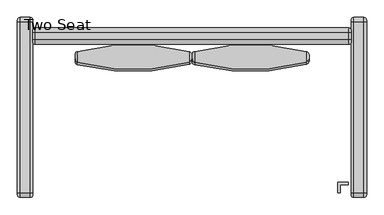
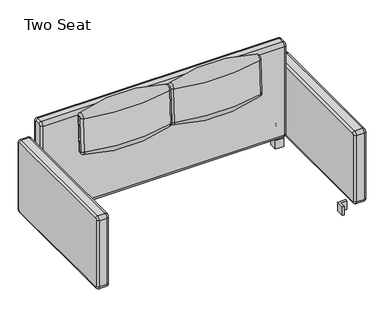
"""IFC4 building model written with IfcOpenShell, lengths in millimetres: furniture geometry, Steelcase Coalesse - Evaneau - Seating - Sofa : Two Seat."""

from ifc_helpers import new_model, si_unit, point, frame, origin, origin_with_axes, place, context, project, spatial, polyline, circle_curve, ellipse_curve, trimmed, outline, extrude, source, transform, mapped, element, save
from ifc_brep_helpers import plane_surface, cylinder_surface, revolved_surface, advanced_brep


def two_seat_02a8d479(model_context):
    return source(origin(), model_context, "Body", "SolidModel", [
        advanced_brep(
        [(-678.1280289, 903.8964377, 479.2310241), (-678.1280289, 914.9972741, 691.047601), (-663.917922, 896.5975978, 692.0118871), (-663.917922, 885.4967614, 480.1953103), (-663.917922, 882.8995406, 692.7297719), (-663.917922, 871.7987042, 480.913195), (-678.1280289, 864.4998643, 693.6940581), (-678.1280289, 853.3990279, 481.8774812), (-1213.8326529, 864.1774825, 693.7109534), (-1213.8326529, 853.0766461, 481.8943765), (-1225.73815, 879.5738856, 692.9040621), (-1225.73815, 868.4730492, 481.0874852), (-1225.73815, 899.9232528, 691.8375969), (-1225.73815, 888.8224164, 480.0210201), (-1213.8326529, 915.3196559, 691.0307057), (-1213.8326529, 904.2188195, 479.2141288)],
        [
            (0, 1),
            (1, 2, circle_curve(frame((-682.967922, 896.5975978, 692.0118871), z_axis=(0.0, -0.05233595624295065, -0.9986295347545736), x_axis=(1.0, 0.0, 0.0)), 19.05)),
            (2, 3),
            (3, 0, circle_curve(frame((-682.967922, 885.4967614, 480.1953103), z_axis=(0.0, 0.05233595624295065, 0.9986295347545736), x_axis=(1.0, 0.0, 0.0)), 19.05)),
            (2, 4, circle_curve(frame((-663.917922, 889.7485692, 692.3708295), z_axis=(1.0, 0.0, 0.0), x_axis=(0.0, 0.9986295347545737, -0.052335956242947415)), 6.8584279)),
            (4, 5),
            (5, 3, circle_curve(frame((-663.917922, 878.6477328, 480.5542526), z_axis=(1.0, 0.0, 0.0), x_axis=(0.0, 0.9986295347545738, -0.05233595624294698)), 6.8584279)),
            (4, 6, circle_curve(frame((-682.967922, 882.8995406, 692.7297719), z_axis=(0.0, -0.05233595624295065, -0.9986295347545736), x_axis=(1.0, 0.0, 0.0)), 19.05)),
            (6, 7),
            (7, 5, circle_curve(frame((-682.967922, 871.7987042, 480.913195), z_axis=(0.0, 0.05233595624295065, 0.9986295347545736), x_axis=(1.0, 0.0, 0.0)), 19.05)),
            (6, 8, circle_curve(frame((-946.5963289, 1885.1277547, 640.2052169), z_axis=(0.0, -0.05233595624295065, -0.9986295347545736), x_axis=(1.0, 0.0, 0.0)), 1056.7012705)),
            (8, 9),
            (9, 7, circle_curve(frame((-946.5963289, 1874.0269183, 428.38864), z_axis=(0.0, 0.05233595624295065, 0.9986295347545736), x_axis=(1.0, 0.0, 0.0)), 1056.7012705)),
            (8, 10, circle_curve(frame((-1209.8026053, 879.5738856, 692.9040621), z_axis=(0.0, -0.05233595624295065, -0.9986295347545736), x_axis=(1.0, 0.0, 0.0)), 15.9355447)),
            (10, 11),
            (11, 9, circle_curve(frame((-1209.8026053, 868.4730492, 481.0874852), z_axis=(0.0, 0.05233595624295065, 0.9986295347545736), x_axis=(1.0, 0.0, 0.0)), 15.9355447)),
            (10, 12, circle_curve(frame((-1225.73815, 889.7485692, 692.3708295), z_axis=(-1.0, 0.0, 0.0), x_axis=(0.0, 0.9986295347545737, -0.052335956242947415)), 10.1886468)),
            (12, 13),
            (13, 11, circle_curve(frame((-1225.73815, 878.6477328, 480.5542526), z_axis=(-1.0, 0.0, 0.0), x_axis=(0.0, 0.9986295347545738, -0.05233595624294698)), 10.1886468)),
            (12, 14, circle_curve(frame((-1209.8026053, 899.9232528, 691.8375969), z_axis=(0.0, -0.05233595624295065, -0.9986295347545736), x_axis=(1.0, 0.0, 0.0)), 15.9355447)),
            (14, 15),
            (15, 13, circle_curve(frame((-1209.8026053, 888.8224164, 480.0210201), z_axis=(0.0, 0.05233595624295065, 0.9986295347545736), x_axis=(1.0, 0.0, 0.0)), 15.9355447)),
            (0, 15, circle_curve(frame((-946.5963289, -116.7314527, 532.7198653), z_axis=(0.0, 0.05233595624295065, 0.9986295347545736), x_axis=(1.0, 0.0, 0.0)), 1056.7012705)),
            (14, 1, circle_curve(frame((-946.5963289, -105.6306163, 744.5364422), z_axis=(0.0, -0.05233595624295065, -0.9986295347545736), x_axis=(1.0, 0.0, 0.0)), 1056.7012705)),
            (8, 14, circle_curve(frame((-1213.8326529, 889.7485692, 692.3708295), z_axis=(-1.0, 0.0, 0.0), x_axis=(0.0, 0.9986295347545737, -0.052335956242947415)), 25.606179)),
            (6, 1, circle_curve(frame((-678.1280289, 889.7485692, 692.3708295), z_axis=(-1.0, 0.0, 0.0), x_axis=(0.0, 0.9986295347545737, -0.052335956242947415)), 25.2833549)),
            (15, 9, circle_curve(frame((-1213.8326529, 878.6477328, 480.5542526), z_axis=(-1.0, 0.0, 0.0), x_axis=(0.0, 0.9986295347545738, -0.05233595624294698)), 25.606179)),
            (7, 0, circle_curve(frame((-678.1280289, 878.6477328, 480.5542526), z_axis=(1.0, 0.0, 0.0), x_axis=(0.0, 0.9986295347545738, -0.05233595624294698)), 25.2833549)),
        ],
        [
            cylinder_surface(frame((-682.967922, 896.5975978, 692.0118871), z_axis=(0.0, -0.05233595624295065, -0.9986295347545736), x_axis=(1.0, 0.0, 0.0)), 19.05),
            plane_surface(frame((-663.917922, 885.4967614, 480.1953103), z_axis=(1.0000000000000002, 0.0, 0.0), x_axis=(0.0, 0.052335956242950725, 0.9986295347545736))),
            cylinder_surface(frame((-682.967922, 882.8995406, 692.7297719), z_axis=(0.0, -0.05233595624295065, -0.9986295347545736), x_axis=(1.0, 0.0, 0.0)), 19.05),
            cylinder_surface(frame((-946.5963289, 1885.1277547, 640.2052169), z_axis=(0.0, -0.05233595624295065, -0.9986295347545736), x_axis=(1.0, 0.0, 0.0)), 1056.7012705),
            cylinder_surface(frame((-1209.8026053, 879.5738856, 692.9040621), z_axis=(0.0, -0.05233595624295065, -0.9986295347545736), x_axis=(1.0, 0.0, 0.0)), 15.9355447),
            plane_surface(frame((-1225.73815, 868.4730492, 481.0874852), z_axis=(-1.0000000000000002, 0.0, 0.0), x_axis=(0.0, 0.052335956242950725, 0.9986295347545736))),
            cylinder_surface(frame((-1209.8026053, 899.9232528, 691.8375969), z_axis=(0.0, -0.05233595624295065, -0.9986295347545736), x_axis=(1.0, 0.0, 0.0)), 15.9355447),
            cylinder_surface(frame((-946.5963289, -105.6306163, 744.5364422), z_axis=(0.0, -0.05233595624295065, -0.9986295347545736), x_axis=(1.0, 0.0, 0.0)), 1056.7012705),
            revolved_surface(trimmed(ellipse_curve(frame((-1209.8026053, 899.9232528, 691.8375969), z_axis=(0.0, -0.05233595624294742, -0.9986295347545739), x_axis=(0.280242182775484, -0.958613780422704, 0.050238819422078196)), 15.9355447, 15.9355447), [point((-1225.73815, 899.9232528, 691.8375969))], [point((-1213.8326529, 915.3196559, 691.0307057))], True, "CARTESIAN"), (-1225.73815, 889.7485692, 692.3708295), (1.0, 0.0, 0.0)),
            revolved_surface(trimmed(ellipse_curve(frame((-946.5963289, -105.6306163, 744.5364422), z_axis=(0.0, -0.05233595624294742, -0.9986295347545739), x_axis=(0.280242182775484, -0.958613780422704, 0.050238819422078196)), 1056.7012705, 1056.7012705), [point((-1213.8326529, 915.3196559, 691.0307057))], [point((-678.1280289, 914.9972741, 691.047601))], True, "CARTESIAN"), (-1225.73815, 889.7485692, 692.3708295), (1.0, 0.0, 0.0)),
            revolved_surface(trimmed(ellipse_curve(frame((-682.967922, 896.5975978, 692.0118871), z_axis=(0.0, -0.05233595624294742, -0.9986295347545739), x_axis=(0.280242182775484, -0.958613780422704, 0.050238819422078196)), 19.05, 19.05), [point((-678.1280289, 914.9972741, 691.047601))], [point((-663.917922, 896.5975978, 692.0118871))], True, "CARTESIAN"), (-1225.73815, 889.7485692, 692.3708295), (1.0, 0.0, 0.0)),
            revolved_surface(trimmed(ellipse_curve(frame((-1209.8026053, 888.8224164, 480.0210201), z_axis=(0.0, 0.05233595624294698, 0.9986295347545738), x_axis=(1.0, 0.0, 0.0)), 15.9355447, 15.9355447), [point((-1213.8326529, 904.2188195, 479.2141288))], [point((-1225.73815, 888.8224164, 480.0210201))], True, "CARTESIAN"), (-663.917922, 878.6477328, 480.5542526), (-1.0, 0.0, 0.0)),
            revolved_surface(trimmed(ellipse_curve(frame((-682.967922, 885.4967614, 480.1953103), z_axis=(0.0, 0.05233595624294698, 0.9986295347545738), x_axis=(1.0, 0.0, 0.0)), 19.05, 19.05), [point((-663.917922, 885.4967614, 480.1953103))], [point((-678.1280289, 903.8964377, 479.2310241))], True, "CARTESIAN"), (-663.917922, 878.6477328, 480.5542526), (-1.0, 0.0, 0.0)),
            revolved_surface(trimmed(ellipse_curve(frame((-946.5963289, -116.7314527, 532.7198653), z_axis=(0.0, 0.05233595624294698, 0.9986295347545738), x_axis=(1.0, 0.0, 0.0)), 1056.7012705, 1056.7012705), [point((-678.1280289, 903.8964377, 479.2310241))], [point((-1213.8326529, 904.2188195, 479.2141288))], True, "CARTESIAN"), (-663.917922, 878.6477328, 480.5542526), (-1.0, 0.0, 0.0)),
        ],
        [
            (0, [[1, 2, 3, 4]]),
            (1, [[-3, 5, 6, 7]]),
            (2, [[-6, 8, 9, 10]]),
            (3, [[-9, 11, 12, 13]]),
            (4, [[-12, 14, 15, 16]]),
            (5, [[-15, 17, 18, 19]]),
            (6, [[-18, 20, 21, 22]]),
            (7, [[-1, 23, -21, 24]]),
            (8, [[-17, -14, 25, -20]]),
            (9, [[-25, -11, 26, -24]]),
            (10, [[-26, -8, -5, -2]]),
            (11, [[-19, -22, 27, -16]]),
            (12, [[-7, -10, 28, -4]]),
            (13, [[-27, -23, -28, -13]]),
        ],
    ),
        advanced_brep(
        [(-115.8305616, 903.8964377, 479.2310241), (-115.8305616, 914.9972741, 691.047601), (-101.6204546, 896.5975978, 692.0118871), (-101.6204546, 885.4967614, 480.1953103), (-101.6204546, 882.8995406, 692.7297719), (-101.6204546, 871.7987042, 480.913195), (-115.8305616, 864.4998643, 693.6940581), (-115.8305616, 853.3990279, 481.8774812), (-651.5351855, 864.1774825, 693.7109534), (-651.5351855, 853.0766461, 481.8943765), (-663.4406826, 879.5738856, 692.9040621), (-663.4406826, 868.4730492, 481.0874852), (-663.4406826, 899.9232528, 691.8375969), (-663.4406826, 888.8224164, 480.0210201), (-651.5351855, 915.3196559, 691.0307057), (-651.5351855, 904.2188195, 479.2141288)],
        [
            (0, 1),
            (1, 2, circle_curve(frame((-120.6704546, 896.5975978, 692.0118871), z_axis=(0.0, -0.05233595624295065, -0.9986295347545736), x_axis=(1.0, 0.0, 0.0)), 19.05)),
            (2, 3),
            (3, 0, circle_curve(frame((-120.6704546, 885.4967614, 480.1953103), z_axis=(0.0, 0.05233595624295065, 0.9986295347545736), x_axis=(1.0, 0.0, 0.0)), 19.05)),
            (2, 4, circle_curve(frame((-101.6204546, 889.7485692, 692.3708295), z_axis=(1.0, 0.0, 0.0), x_axis=(0.0, 0.9986295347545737, -0.052335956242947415)), 6.8584279)),
            (4, 5),
            (5, 3, circle_curve(frame((-101.6204546, 878.6477328, 480.5542526), z_axis=(1.0, 0.0, 0.0), x_axis=(0.0, 0.9986295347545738, -0.05233595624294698)), 6.8584279)),
            (4, 6, circle_curve(frame((-120.6704546, 882.8995406, 692.7297719), z_axis=(0.0, -0.05233595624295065, -0.9986295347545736), x_axis=(1.0, 0.0, 0.0)), 19.05)),
            (6, 7),
            (7, 5, circle_curve(frame((-120.6704546, 871.7987042, 480.913195), z_axis=(0.0, 0.05233595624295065, 0.9986295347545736), x_axis=(1.0, 0.0, 0.0)), 19.05)),
            (6, 8, circle_curve(frame((-384.2988615, 1885.1277547, 640.2052169), z_axis=(0.0, -0.05233595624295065, -0.9986295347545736), x_axis=(1.0, 0.0, 0.0)), 1056.7012705)),
            (8, 9),
            (9, 7, circle_curve(frame((-384.2988615, 1874.0269183, 428.38864), z_axis=(0.0, 0.05233595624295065, 0.9986295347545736), x_axis=(1.0, 0.0, 0.0)), 1056.7012705)),
            (8, 10, circle_curve(frame((-647.505138, 879.5738856, 692.9040621), z_axis=(0.0, -0.05233595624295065, -0.9986295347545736), x_axis=(1.0, 0.0, 0.0)), 15.9355447)),
            (10, 11),
            (11, 9, circle_curve(frame((-647.505138, 868.4730492, 481.0874852), z_axis=(0.0, 0.05233595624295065, 0.9986295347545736), x_axis=(1.0, 0.0, 0.0)), 15.9355447)),
            (10, 12, circle_curve(frame((-663.4406826, 889.7485692, 692.3708295), z_axis=(-1.0, 0.0, 0.0), x_axis=(0.0, 0.9986295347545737, -0.052335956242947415)), 10.1886468)),
            (12, 13),
            (13, 11, circle_curve(frame((-663.4406826, 878.6477328, 480.5542526), z_axis=(-1.0, 0.0, 0.0), x_axis=(0.0, 0.9986295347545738, -0.05233595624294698)), 10.1886468)),
            (12, 14, circle_curve(frame((-647.505138, 899.9232528, 691.8375969), z_axis=(0.0, -0.05233595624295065, -0.9986295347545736), x_axis=(1.0, 0.0, 0.0)), 15.9355447)),
            (14, 15),
            (15, 13, circle_curve(frame((-647.505138, 888.8224164, 480.0210201), z_axis=(0.0, 0.05233595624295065, 0.9986295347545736), x_axis=(1.0, 0.0, 0.0)), 15.9355447)),
            (0, 15, circle_curve(frame((-384.2988615, -116.7314527, 532.7198653), z_axis=(0.0, 0.05233595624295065, 0.9986295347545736), x_axis=(1.0, 0.0, 0.0)), 1056.7012705)),
            (14, 1, circle_curve(frame((-384.2988615, -105.6306163, 744.5364422), z_axis=(0.0, -0.05233595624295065, -0.9986295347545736), x_axis=(1.0, 0.0, 0.0)), 1056.7012705)),
            (8, 14, circle_curve(frame((-651.5351855, 889.7485692, 692.3708295), z_axis=(-1.0, 0.0, 0.0), x_axis=(0.0, 0.9986295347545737, -0.052335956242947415)), 25.606179)),
            (6, 1, circle_curve(frame((-115.8305616, 889.7485692, 692.3708295), z_axis=(-1.0, 0.0, 0.0), x_axis=(0.0, 0.9986295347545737, -0.052335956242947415)), 25.2833549)),
            (15, 9, circle_curve(frame((-651.5351855, 878.6477328, 480.5542526), z_axis=(-1.0, 0.0, 0.0), x_axis=(0.0, 0.9986295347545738, -0.05233595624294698)), 25.606179)),
            (7, 0, circle_curve(frame((-115.8305616, 878.6477328, 480.5542526), z_axis=(1.0, 0.0, 0.0), x_axis=(0.0, 0.9986295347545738, -0.05233595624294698)), 25.2833549)),
        ],
        [
            cylinder_surface(frame((-120.6704546, 896.5975978, 692.0118871), z_axis=(0.0, -0.05233595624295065, -0.9986295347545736), x_axis=(1.0, 0.0, 0.0)), 19.05),
            plane_surface(frame((-101.6204546, 885.4967614, 480.1953103), z_axis=(1.0000000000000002, 0.0, 0.0), x_axis=(0.0, 0.052335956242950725, 0.9986295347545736))),
            cylinder_surface(frame((-120.6704546, 882.8995406, 692.7297719), z_axis=(0.0, -0.05233595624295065, -0.9986295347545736), x_axis=(1.0, 0.0, 0.0)), 19.05),
            cylinder_surface(frame((-384.2988615, 1885.1277547, 640.2052169), z_axis=(0.0, -0.05233595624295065, -0.9986295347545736), x_axis=(1.0, 0.0, 0.0)), 1056.7012705),
            cylinder_surface(frame((-647.505138, 879.5738856, 692.9040621), z_axis=(0.0, -0.05233595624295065, -0.9986295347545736), x_axis=(1.0, 0.0, 0.0)), 15.9355447),
            plane_surface(frame((-663.4406826, 868.4730492, 481.0874852), z_axis=(-1.0000000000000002, 0.0, 0.0), x_axis=(0.0, 0.052335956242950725, 0.9986295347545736))),
            cylinder_surface(frame((-647.505138, 899.9232528, 691.8375969), z_axis=(0.0, -0.05233595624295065, -0.9986295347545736), x_axis=(1.0, 0.0, 0.0)), 15.9355447),
            cylinder_surface(frame((-384.2988615, -105.6306163, 744.5364422), z_axis=(0.0, -0.05233595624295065, -0.9986295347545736), x_axis=(1.0, 0.0, 0.0)), 1056.7012705),
            revolved_surface(trimmed(ellipse_curve(frame((-647.505138, 899.9232528, 691.8375969), z_axis=(0.0, -0.05233595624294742, -0.9986295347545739), x_axis=(0.280242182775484, -0.958613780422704, 0.050238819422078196)), 15.9355447, 15.9355447), [point((-663.4406826, 899.9232528, 691.8375969))], [point((-651.5351855, 915.3196559, 691.0307057))], True, "CARTESIAN"), (-663.4406826, 889.7485692, 692.3708295), (1.0, 0.0, 0.0)),
            revolved_surface(trimmed(ellipse_curve(frame((-384.2988615, -105.6306163, 744.5364422), z_axis=(0.0, -0.05233595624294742, -0.9986295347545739), x_axis=(0.280242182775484, -0.958613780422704, 0.050238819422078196)), 1056.7012705, 1056.7012705), [point((-651.5351855, 915.3196559, 691.0307057))], [point((-115.8305616, 914.9972741, 691.047601))], True, "CARTESIAN"), (-663.4406826, 889.7485692, 692.3708295), (1.0, 0.0, 0.0)),
            revolved_surface(trimmed(ellipse_curve(frame((-120.6704546, 896.5975978, 692.0118871), z_axis=(0.0, -0.05233595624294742, -0.9986295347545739), x_axis=(0.280242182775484, -0.958613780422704, 0.050238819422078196)), 19.05, 19.05), [point((-115.8305616, 914.9972741, 691.047601))], [point((-101.6204546, 896.5975978, 692.0118871))], True, "CARTESIAN"), (-663.4406826, 889.7485692, 692.3708295), (1.0, 0.0, 0.0)),
            revolved_surface(trimmed(ellipse_curve(frame((-647.505138, 888.8224164, 480.0210201), z_axis=(0.0, 0.05233595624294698, 0.9986295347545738), x_axis=(1.0, 0.0, 0.0)), 15.9355447, 15.9355447), [point((-651.5351855, 904.2188195, 479.2141288))], [point((-663.4406826, 888.8224164, 480.0210201))], True, "CARTESIAN"), (-101.6204546, 878.6477328, 480.5542526), (-1.0, 0.0, 0.0)),
            revolved_surface(trimmed(ellipse_curve(frame((-120.6704546, 885.4967614, 480.1953103), z_axis=(0.0, 0.05233595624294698, 0.9986295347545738), x_axis=(1.0, 0.0, 0.0)), 19.05, 19.05), [point((-101.6204546, 885.4967614, 480.1953103))], [point((-115.8305616, 903.8964377, 479.2310241))], True, "CARTESIAN"), (-101.6204546, 878.6477328, 480.5542526), (-1.0, 0.0, 0.0)),
            revolved_surface(trimmed(ellipse_curve(frame((-384.2988615, -116.7314527, 532.7198653), z_axis=(0.0, 0.05233595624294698, 0.9986295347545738), x_axis=(1.0, 0.0, 0.0)), 1056.7012705, 1056.7012705), [point((-115.8305616, 903.8964377, 479.2310241))], [point((-651.5351855, 904.2188195, 479.2141288))], True, "CARTESIAN"), (-101.6204546, 878.6477328, 480.5542526), (-1.0, 0.0, 0.0)),
        ],
        [
            (0, [[1, 2, 3, 4]]),
            (1, [[-3, 5, 6, 7]]),
            (2, [[-6, 8, 9, 10]]),
            (3, [[-9, 11, 12, 13]]),
            (4, [[-12, 14, 15, 16]]),
            (5, [[-15, 17, 18, 19]]),
            (6, [[-18, 20, 21, 22]]),
            (7, [[-1, 23, -21, 24]]),
            (8, [[-17, -14, 25, -20]]),
            (9, [[-25, -11, 26, -24]]),
            (10, [[-26, -8, -5, -2]]),
            (11, [[-19, -22, 27, -16]]),
            (12, [[-7, -10, 28, -4]]),
            (13, [[-27, -23, -28, -13]]),
        ],
    ),
        advanced_brep(
        [(161.582078, 1079.0418203, 513.0799782), (161.582078, 1058.7217985, 533.4), (174.282078, 1058.7217985, 520.7), (174.282078, 1066.3418203, 513.0799782), (113.322078, 1079.0418203, 513.0799782), (113.322078, 1058.7217985, 533.4), (100.622078, 1066.3418203, 513.0799782), (100.622078, 1058.7217985, 520.7), (174.282078, 1066.3418203, 76.6537426), (161.582078, 1079.0418203, 76.6537426), (113.322078, 1079.0418203, 76.6537426), (100.622078, 1066.3418203, 76.6537426), (174.282078, 1058.7217985, 69.0337208), (161.582078, 1058.7217985, 56.3337208), (113.322078, 1058.7217985, 56.3337208), (100.622078, 1058.7217985, 69.0337208), (174.282078, 235.3471838, 69.0337208), (161.582078, 235.3471838, 56.3337208), (113.322078, 235.3471838, 56.3337208), (100.622078, 235.3471838, 69.0337208), (174.282078, 227.727162, 76.6537426), (161.582078, 215.027162, 76.6537426), (113.322078, 215.027162, 76.6537426), (100.622078, 227.727162, 76.6537426), (174.282078, 227.727162, 513.0799782), (161.582078, 215.027162, 513.0799782), (113.322078, 215.027162, 513.0799782), (100.622078, 227.727162, 513.0799782), (174.282078, 235.3471838, 520.7), (161.582078, 235.3471838, 533.4), (113.322078, 235.3471838, 533.4), (100.622078, 235.3471838, 520.7)],
        [
            (0, 1, circle_curve(frame((161.582078, 1058.7217985, 513.0799782), z_axis=(1.0, 0.0, 0.0), x_axis=(0.0, 0.0, 1.0)), 20.3200218)),
            (1, 2, circle_curve(frame((161.582078, 1058.7217985, 520.7), z_axis=(0.0, 1.0, 0.0), x_axis=(0.0, 0.0, -1.0)), 12.7)),
            (2, 3, circle_curve(frame((174.282078, 1058.7217985, 513.0799782), z_axis=(-1.0, 0.0, 0.0), x_axis=(0.0, 0.0, 1.0)), 7.6200218)),
            (3, 0, circle_curve(frame((161.582078, 1066.3418203, 513.0799782), z_axis=(0.0, 0.0, 1.0), x_axis=(0.0, -1.0, 0.0)), 12.7)),
            (0, 4),
            (4, 5, circle_curve(frame((113.322078, 1058.7217985, 513.0799782), z_axis=(1.0, 0.0, 0.0), x_axis=(0.0, 0.0, 1.0)), 20.3200218)),
            (5, 1),
            (4, 6, circle_curve(frame((113.322078, 1066.3418203, 513.0799782), z_axis=(0.0, 0.0, 1.0), x_axis=(0.0, -1.0, 0.0)), 12.7)),
            (6, 7, circle_curve(frame((100.622078, 1058.7217985, 513.0799782), z_axis=(1.0, 0.0, 0.0), x_axis=(0.0, 0.0, 1.0)), 7.6200218)),
            (7, 5, circle_curve(frame((113.322078, 1058.7217985, 520.7), z_axis=(0.0, 1.0, 0.0), x_axis=(0.0, 0.0, -1.0)), 12.7)),
            (3, 8),
            (8, 9, circle_curve(frame((161.582078, 1066.3418203, 76.6537426), z_axis=(0.0, 0.0, 1.0), x_axis=(0.0, -1.0, 0.0)), 12.7)),
            (9, 0),
            (9, 10),
            (10, 4),
            (10, 11, circle_curve(frame((113.322078, 1066.3418203, 76.6537426), z_axis=(0.0, 0.0, 1.0), x_axis=(0.0, -1.0, 0.0)), 12.7)),
            (11, 6),
            (8, 12, circle_curve(frame((174.282078, 1058.7217985, 76.6537426), z_axis=(-1.0, 0.0, 0.0), x_axis=(0.0, 1.0, 0.0)), 7.6200218)),
            (12, 13, circle_curve(frame((161.582078, 1058.7217985, 69.0337208), z_axis=(0.0, 1.0, 0.0), x_axis=(0.0, 0.0, 1.0)), 12.7)),
            (13, 9, circle_curve(frame((161.582078, 1058.7217985, 76.6537426), z_axis=(1.0, 0.0, 0.0), x_axis=(0.0, 1.0, 0.0)), 20.3200218)),
            (13, 14),
            (14, 10, circle_curve(frame((113.322078, 1058.7217985, 76.6537426), z_axis=(1.0, 0.0, 0.0), x_axis=(0.0, 1.0, 0.0)), 20.3200218)),
            (14, 15, circle_curve(frame((113.322078, 1058.7217985, 69.0337208), z_axis=(0.0, 1.0, 0.0), x_axis=(0.0, 0.0, 1.0)), 12.7)),
            (15, 11, circle_curve(frame((100.622078, 1058.7217985, 76.6537426), z_axis=(1.0, 0.0, 0.0), x_axis=(0.0, 1.0, 0.0)), 7.6200218)),
            (12, 16),
            (16, 17, circle_curve(frame((161.582078, 235.3471838, 69.0337208), z_axis=(0.0, 1.0, 0.0), x_axis=(0.0, 0.0, 1.0)), 12.7)),
            (17, 13),
            (17, 18),
            (18, 14),
            (18, 19, circle_curve(frame((113.322078, 235.3471838, 69.0337208), z_axis=(0.0, 1.0, 0.0), x_axis=(0.0, 0.0, 1.0)), 12.7)),
            (19, 15),
            (16, 20, circle_curve(frame((174.282078, 235.3471838, 76.6537426), z_axis=(-1.0, 0.0, 0.0), x_axis=(0.0, 0.0, -1.0)), 7.6200218)),
            (20, 21, circle_curve(frame((161.582078, 227.727162, 76.6537426), z_axis=(0.0, 0.0, -1.0), x_axis=(0.0, 1.0, 0.0)), 12.7)),
            (21, 17, circle_curve(frame((161.582078, 235.3471838, 76.6537426), z_axis=(1.0, 0.0, 0.0), x_axis=(0.0, 0.0, -1.0)), 20.3200218)),
            (21, 22),
            (22, 18, circle_curve(frame((113.322078, 235.3471838, 76.6537426), z_axis=(1.0, 0.0, 0.0), x_axis=(0.0, 0.0, -1.0)), 20.3200218)),
            (22, 23, circle_curve(frame((113.322078, 227.727162, 76.6537426), z_axis=(0.0, 0.0, -1.0), x_axis=(0.0, 1.0, 0.0)), 12.7)),
            (23, 19, circle_curve(frame((100.622078, 235.3471838, 76.6537426), z_axis=(1.0, 0.0, 0.0), x_axis=(0.0, 0.0, -1.0)), 7.6200218)),
            (20, 24),
            (24, 25, circle_curve(frame((161.582078, 227.727162, 513.0799782), z_axis=(0.0, 0.0, -1.0), x_axis=(0.0, 1.0, 0.0)), 12.7)),
            (25, 21),
            (25, 26),
            (26, 22),
            (26, 27, circle_curve(frame((113.322078, 227.727162, 513.0799782), z_axis=(0.0, 0.0, -1.0), x_axis=(0.0, 1.0, 0.0)), 12.7)),
            (27, 23),
            (24, 28, circle_curve(frame((174.282078, 235.3471838, 513.0799782), z_axis=(-1.0, 0.0, 0.0), x_axis=(0.0, -1.0, 0.0)), 7.6200218)),
            (28, 29, circle_curve(frame((161.582078, 235.3471838, 520.7), z_axis=(0.0, -1.0, 0.0), x_axis=(0.0, 0.0, -1.0)), 12.7)),
            (29, 25, circle_curve(frame((161.582078, 235.3471838, 513.0799782), z_axis=(1.0, 0.0, 0.0), x_axis=(0.0, -1.0, 0.0)), 20.3200218)),
            (29, 30),
            (30, 26, circle_curve(frame((113.322078, 235.3471838, 513.0799782), z_axis=(1.0, 0.0, 0.0), x_axis=(0.0, -1.0, 0.0)), 20.3200218)),
            (30, 31, circle_curve(frame((113.322078, 235.3471838, 520.7), z_axis=(0.0, -1.0, 0.0), x_axis=(0.0, 0.0, -1.0)), 12.7)),
            (31, 27, circle_curve(frame((100.622078, 235.3471838, 513.0799782), z_axis=(1.0, 0.0, 0.0), x_axis=(0.0, -1.0, 0.0)), 7.6200218)),
            (2, 28),
            (1, 29),
            (5, 30),
            (7, 31),
        ],
        [
            revolved_surface(trimmed(ellipse_curve(frame((161.582078, 1058.7217985, 520.7), z_axis=(0.0, -1.0, 0.0), x_axis=(0.0, 0.0, -1.0)), 12.7, 12.7), [point((174.282078, 1058.7217985, 520.7))], [point((161.582078, 1058.7217985, 533.4))], True, "CARTESIAN"), (405.422078, 1058.7217985, 513.0799782), (-1.0, 0.0, 0.0)),
            cylinder_surface(frame((405.422078, 1058.7217985, 513.0799782), z_axis=(-1.0, 0.0, 0.0), x_axis=(0.0, 0.0, 1.0)), 20.3200218),
            revolved_surface(trimmed(ellipse_curve(frame((113.322078, 1058.7217985, 520.7), z_axis=(0.0, -1.0, 0.0), x_axis=(0.0, 0.0, -1.0)), 12.7, 12.7), [point((113.322078, 1058.7217985, 533.4))], [point((100.622078, 1058.7217985, 520.7))], True, "CARTESIAN"), (405.422078, 1058.7217985, 513.0799782), (-1.0, 0.0, 0.0)),
            cylinder_surface(frame((161.582078, 1066.3418203, 513.0799782), z_axis=(0.0, 0.0, 1.0), x_axis=(0.0, -1.0, 0.0)), 12.7),
            plane_surface(frame((161.582078, 1079.0418203, 513.0799782), z_axis=(0.0, 1.0, 0.0), x_axis=(0.0, 0.0, -1.0))),
            cylinder_surface(frame((113.322078, 1066.3418203, 513.0799782), z_axis=(0.0, 0.0, 1.0), x_axis=(0.0, -1.0, 0.0)), 12.7),
            revolved_surface(trimmed(ellipse_curve(frame((161.582078, 1066.3418203, 76.6537426), z_axis=(0.0, 0.0, 1.0), x_axis=(0.0, -1.0, 0.0)), 12.7, 12.7), [point((174.282078, 1066.3418203, 76.6537426))], [point((161.582078, 1079.0418203, 76.6537426))], True, "CARTESIAN"), (405.422078, 1058.7217985, 76.6537426), (-1.0, 0.0, 0.0)),
            cylinder_surface(frame((405.422078, 1058.7217985, 76.6537426), z_axis=(-1.0, 0.0, 0.0), x_axis=(0.0, 1.0, 0.0)), 20.3200218),
            revolved_surface(trimmed(ellipse_curve(frame((113.322078, 1066.3418203, 76.6537426), z_axis=(0.0, 0.0, 1.0), x_axis=(0.0, -1.0, 0.0)), 12.7, 12.7), [point((113.322078, 1079.0418203, 76.6537426))], [point((100.622078, 1066.3418203, 76.6537426))], True, "CARTESIAN"), (405.422078, 1058.7217985, 76.6537426), (-1.0, 0.0, 0.0)),
            cylinder_surface(frame((161.582078, 1058.7217985, 69.0337208), z_axis=(0.0, 1.0, 0.0), x_axis=(0.0, 0.0, 1.0)), 12.7),
            plane_surface(frame((161.582078, 1058.7217985, 56.3337208), z_axis=(0.0, 0.0, -1.0), x_axis=(0.0, -1.0, 0.0))),
            cylinder_surface(frame((113.322078, 1058.7217985, 69.0337208), z_axis=(0.0, 1.0, 0.0), x_axis=(0.0, 0.0, 1.0)), 12.7),
            revolved_surface(trimmed(ellipse_curve(frame((161.582078, 235.3471838, 69.0337208), z_axis=(0.0, 1.0, 0.0), x_axis=(0.0, 0.0, 1.0)), 12.7, 12.7), [point((174.282078, 235.3471838, 69.0337208))], [point((161.582078, 235.3471838, 56.3337208))], True, "CARTESIAN"), (405.422078, 235.3471838, 76.6537426), (-1.0, 0.0, 0.0)),
            cylinder_surface(frame((405.422078, 235.3471838, 76.6537426), z_axis=(-1.0, 0.0, 0.0), x_axis=(0.0, 0.0, -1.0)), 20.3200218),
            revolved_surface(trimmed(ellipse_curve(frame((113.322078, 235.3471838, 69.0337208), z_axis=(0.0, 1.0, 0.0), x_axis=(0.0, 0.0, 1.0)), 12.7, 12.7), [point((113.322078, 235.3471838, 56.3337208))], [point((100.622078, 235.3471838, 69.0337208))], True, "CARTESIAN"), (405.422078, 235.3471838, 76.6537426), (-1.0, 0.0, 0.0)),
            cylinder_surface(frame((161.582078, 227.727162, 76.6537426), z_axis=(0.0, 0.0, -1.0), x_axis=(0.0, 1.0, 0.0)), 12.7),
            plane_surface(frame((161.582078, 215.027162, 76.6537426), z_axis=(0.0, -1.0, 0.0), x_axis=(0.0, 0.0, 1.0))),
            cylinder_surface(frame((113.322078, 227.727162, 76.6537426), z_axis=(0.0, 0.0, -1.0), x_axis=(0.0, 1.0, 0.0)), 12.7),
            revolved_surface(trimmed(ellipse_curve(frame((161.582078, 227.727162, 513.0799782), z_axis=(0.0, 0.0, -1.0), x_axis=(0.0, 1.0, 0.0)), 12.7, 12.7), [point((174.282078, 227.727162, 513.0799782))], [point((161.582078, 215.027162, 513.0799782))], True, "CARTESIAN"), (405.422078, 235.3471838, 513.0799782), (-1.0, 0.0, 0.0)),
            cylinder_surface(frame((405.422078, 235.3471838, 513.0799782), z_axis=(-1.0, 0.0, 0.0), x_axis=(0.0, -1.0, 0.0)), 20.3200218),
            revolved_surface(trimmed(ellipse_curve(frame((113.322078, 227.727162, 513.0799782), z_axis=(0.0, 0.0, -1.0), x_axis=(0.0, 1.0, 0.0)), 12.7, 12.7), [point((113.322078, 215.027162, 513.0799782))], [point((100.622078, 227.727162, 513.0799782))], True, "CARTESIAN"), (405.422078, 235.3471838, 513.0799782), (-1.0, 0.0, 0.0)),
            plane_surface(frame((174.282078, 235.3471838, 518.1599782), z_axis=(1.0, 0.0, 0.0), x_axis=(0.0, 1.0, 0.0))),
            cylinder_surface(frame((161.582078, 235.3471838, 520.7), z_axis=(0.0, -1.0, 0.0), x_axis=(0.0, 0.0, -1.0)), 12.7),
            plane_surface(frame((161.582078, 235.3471838, 533.4), z_axis=(0.0, 0.0, 1.0), x_axis=(0.0, 1.0, 0.0))),
            cylinder_surface(frame((113.322078, 235.3471838, 520.7), z_axis=(0.0, -1.0, 0.0), x_axis=(0.0, 0.0, -1.0)), 12.7),
            plane_surface(frame((100.622078, 235.3471838, 520.7), z_axis=(-1.0, 0.0, 0.0), x_axis=(0.0, 1.0, 0.0))),
        ],
        [
            (0, [[1, 2, 3, 4]]),
            (1, [[-1, 5, 6, 7]]),
            (2, [[-6, 8, 9, 10]]),
            (3, [[-4, 11, 12, 13]]),
            (4, [[-5, -13, 14, 15]]),
            (5, [[-8, -15, 16, 17]]),
            (6, [[-12, 18, 19, 20]]),
            (7, [[-14, -20, 21, 22]]),
            (8, [[-16, -22, 23, 24]]),
            (9, [[-19, 25, 26, 27]]),
            (10, [[-21, -27, 28, 29]]),
            (11, [[-23, -29, 30, 31]]),
            (12, [[-26, 32, 33, 34]]),
            (13, [[-28, -34, 35, 36]]),
            (14, [[-30, -36, 37, 38]]),
            (15, [[-33, 39, 40, 41]]),
            (16, [[-35, -41, 42, 43]]),
            (17, [[-37, -43, 44, 45]]),
            (18, [[-40, 46, 47, 48]]),
            (19, [[-42, -48, 49, 50]]),
            (20, [[-44, -50, 51, 52]]),
            (21, [[-3, 53, -46, -39, -32, -25, -18, -11]]),
            (22, [[-2, 54, -47, -53]]),
            (23, [[-7, 55, -49, -54]]),
            (24, [[-10, 56, -51, -55]]),
            (25, [[-9, -17, -24, -31, -38, -45, -52, -56]]),
        ],
    ),
        advanced_brep(
        [(-1502.117922, 1058.7217985, 520.7), (-1502.117922, 1066.3418203, 513.0799782), (-1502.117922, 1066.3418203, 76.6537426), (-1502.117922, 1058.7217985, 69.0337208), (-1502.117922, 235.3471838, 69.0337208), (-1502.117922, 227.727162, 76.6537426), (-1502.117922, 227.727162, 513.0799782), (-1502.117922, 235.3471838, 520.7), (-1428.457922, 1066.3418203, 513.0799782), (-1428.457922, 1058.7217985, 520.7), (-1428.457922, 235.3471838, 520.7), (-1428.457922, 227.727162, 513.0799782), (-1428.457922, 227.727162, 76.6537426), (-1428.457922, 235.3471838, 69.0337208), (-1428.457922, 1058.7217985, 69.0337208), (-1428.457922, 1066.3418203, 76.6537426), (-1441.157922, 1079.0418203, 513.0799782), (-1441.157922, 1058.7217985, 533.4), (-1489.417922, 1079.0418203, 513.0799782), (-1489.417922, 1058.7217985, 533.4), (-1441.157922, 1079.0418203, 76.6537426), (-1489.417922, 1079.0418203, 76.6537426), (-1441.157922, 1058.7217985, 56.3337208), (-1489.417922, 1058.7217985, 56.3337208), (-1441.157922, 235.3471838, 56.3337208), (-1489.417922, 235.3471838, 56.3337208), (-1441.157922, 215.027162, 76.6537426), (-1489.417922, 215.027162, 76.6537426), (-1441.157922, 215.027162, 513.0799782), (-1489.417922, 215.027162, 513.0799782), (-1441.157922, 235.3471838, 533.4), (-1489.417922, 235.3471838, 533.4)],
        [
            (0, 1, circle_curve(frame((-1502.117922, 1058.7217985, 513.0799782), z_axis=(-1.0, 0.0, 0.0), x_axis=(0.0, 0.0, 1.0)), 7.6200218)),
            (1, 2),
            (2, 3, circle_curve(frame((-1502.117922, 1058.7217985, 76.6537426), z_axis=(-1.0, 0.0, 0.0), x_axis=(0.0, 1.0, 0.0)), 7.6200218)),
            (3, 4),
            (4, 5, circle_curve(frame((-1502.117922, 235.3471838, 76.6537426), z_axis=(-1.0, 0.0, 0.0), x_axis=(0.0, 0.0, -1.0)), 7.6200218)),
            (5, 6),
            (6, 7, circle_curve(frame((-1502.117922, 235.3471838, 513.0799782), z_axis=(-1.0, 0.0, 0.0), x_axis=(0.0, -1.0, 0.0)), 7.6200218)),
            (7, 0),
            (8, 9, circle_curve(frame((-1428.457922, 1058.7217985, 513.0799782), z_axis=(1.0, 0.0, 0.0), x_axis=(0.0, 0.0, 1.0)), 7.6200218)),
            (9, 10),
            (10, 11, circle_curve(frame((-1428.457922, 235.3471838, 513.0799782), z_axis=(1.0, 0.0, 0.0), x_axis=(0.0, -1.0, 0.0)), 7.6200218)),
            (11, 12),
            (12, 13, circle_curve(frame((-1428.457922, 235.3471838, 76.6537426), z_axis=(1.0, 0.0, 0.0), x_axis=(0.0, 0.0, -1.0)), 7.6200218)),
            (13, 14),
            (14, 15, circle_curve(frame((-1428.457922, 1058.7217985, 76.6537426), z_axis=(1.0, 0.0, 0.0), x_axis=(0.0, 1.0, 0.0)), 7.6200218)),
            (15, 8),
            (16, 17, circle_curve(frame((-1441.157922, 1058.7217985, 513.0799782), z_axis=(1.0, 0.0, 0.0), x_axis=(0.0, 0.0, 1.0)), 20.3200218)),
            (17, 9, circle_curve(frame((-1441.157922, 1058.7217985, 520.7), z_axis=(0.0, 1.0, 0.0), x_axis=(0.0, 0.0, -1.0)), 12.7)),
            (8, 16, circle_curve(frame((-1441.157922, 1066.3418203, 513.0799782), z_axis=(0.0, 0.0, 1.0), x_axis=(0.0, -1.0, 0.0)), 12.7)),
            (16, 18),
            (18, 19, circle_curve(frame((-1489.417922, 1058.7217985, 513.0799782), z_axis=(1.0, 0.0, 0.0), x_axis=(0.0, 0.0, 1.0)), 20.3200218)),
            (19, 17),
            (18, 1, circle_curve(frame((-1489.417922, 1066.3418203, 513.0799782), z_axis=(0.0, 0.0, 1.0), x_axis=(0.0, -1.0, 0.0)), 12.7)),
            (0, 19, circle_curve(frame((-1489.417922, 1058.7217985, 520.7), z_axis=(0.0, 1.0, 0.0), x_axis=(0.0, 0.0, -1.0)), 12.7)),
            (15, 20, circle_curve(frame((-1441.157922, 1066.3418203, 76.6537426), z_axis=(0.0, 0.0, 1.0), x_axis=(0.0, -1.0, 0.0)), 12.7)),
            (20, 16),
            (20, 21),
            (21, 18),
            (21, 2, circle_curve(frame((-1489.417922, 1066.3418203, 76.6537426), z_axis=(0.0, 0.0, 1.0), x_axis=(0.0, -1.0, 0.0)), 12.7)),
            (14, 22, circle_curve(frame((-1441.157922, 1058.7217985, 69.0337208), z_axis=(0.0, 1.0, 0.0), x_axis=(0.0, 0.0, 1.0)), 12.7)),
            (22, 20, circle_curve(frame((-1441.157922, 1058.7217985, 76.6537426), z_axis=(1.0, 0.0, 0.0), x_axis=(0.0, 1.0, 0.0)), 20.3200218)),
            (22, 23),
            (23, 21, circle_curve(frame((-1489.417922, 1058.7217985, 76.6537426), z_axis=(1.0, 0.0, 0.0), x_axis=(0.0, 1.0, 0.0)), 20.3200218)),
            (23, 3, circle_curve(frame((-1489.417922, 1058.7217985, 69.0337208), z_axis=(0.0, 1.0, 0.0), x_axis=(0.0, 0.0, 1.0)), 12.7)),
            (13, 24, circle_curve(frame((-1441.157922, 235.3471838, 69.0337208), z_axis=(0.0, 1.0, 0.0), x_axis=(0.0, 0.0, 1.0)), 12.7)),
            (24, 22),
            (24, 25),
            (25, 23),
            (25, 4, circle_curve(frame((-1489.417922, 235.3471838, 69.0337208), z_axis=(0.0, 1.0, 0.0), x_axis=(0.0, 0.0, 1.0)), 12.7)),
            (12, 26, circle_curve(frame((-1441.157922, 227.727162, 76.6537426), z_axis=(0.0, 0.0, -1.0), x_axis=(0.0, 1.0, 0.0)), 12.7)),
            (26, 24, circle_curve(frame((-1441.157922, 235.3471838, 76.6537426), z_axis=(1.0, 0.0, 0.0), x_axis=(0.0, 0.0, -1.0)), 20.3200218)),
            (26, 27),
            (27, 25, circle_curve(frame((-1489.417922, 235.3471838, 76.6537426), z_axis=(1.0, 0.0, 0.0), x_axis=(0.0, 0.0, -1.0)), 20.3200218)),
            (27, 5, circle_curve(frame((-1489.417922, 227.727162, 76.6537426), z_axis=(0.0, 0.0, -1.0), x_axis=(0.0, 1.0, 0.0)), 12.7)),
            (11, 28, circle_curve(frame((-1441.157922, 227.727162, 513.0799782), z_axis=(0.0, 0.0, -1.0), x_axis=(0.0, 1.0, 0.0)), 12.7)),
            (28, 26),
            (28, 29),
            (29, 27),
            (29, 6, circle_curve(frame((-1489.417922, 227.727162, 513.0799782), z_axis=(0.0, 0.0, -1.0), x_axis=(0.0, 1.0, 0.0)), 12.7)),
            (10, 30, circle_curve(frame((-1441.157922, 235.3471838, 520.7), z_axis=(0.0, -1.0, 0.0), x_axis=(0.0, 0.0, -1.0)), 12.7)),
            (30, 28, circle_curve(frame((-1441.157922, 235.3471838, 513.0799782), z_axis=(1.0, 0.0, 0.0), x_axis=(0.0, -1.0, 0.0)), 20.3200218)),
            (30, 31),
            (31, 29, circle_curve(frame((-1489.417922, 235.3471838, 513.0799782), z_axis=(1.0, 0.0, 0.0), x_axis=(0.0, -1.0, 0.0)), 20.3200218)),
            (31, 7, circle_curve(frame((-1489.417922, 235.3471838, 520.7), z_axis=(0.0, -1.0, 0.0), x_axis=(0.0, 0.0, -1.0)), 12.7)),
            (17, 30),
            (19, 31),
        ],
        [
            plane_surface(frame((-1502.117922, 1058.7217985, 518.1599782), z_axis=(-1.0, 0.0, 0.0), x_axis=(0.0, 1.0, 0.0))),
            plane_surface(frame((-1428.457922, 1058.7217985, 518.1599782), z_axis=(1.0, 0.0, 0.0), x_axis=(0.0, -1.0, 0.0))),
            revolved_surface(trimmed(ellipse_curve(frame((-1441.157922, 1058.7217985, 520.7), z_axis=(0.0, -1.0, 0.0), x_axis=(0.0, 0.0, -1.0)), 12.7, 12.7), [point((-1428.457922, 1058.7217985, 520.7))], [point((-1441.157922, 1058.7217985, 533.4))], True, "CARTESIAN"), (-1733.257922, 1058.7217985, 513.0799782), (-1.0, 0.0, 0.0)),
            cylinder_surface(frame((-1733.257922, 1058.7217985, 513.0799782), z_axis=(-1.0, 0.0, 0.0), x_axis=(0.0, 0.0, 1.0)), 20.3200218),
            revolved_surface(trimmed(ellipse_curve(frame((-1489.417922, 1058.7217985, 520.7), z_axis=(0.0, -1.0, 0.0), x_axis=(0.0, 0.0, -1.0)), 12.7, 12.7), [point((-1489.417922, 1058.7217985, 533.4))], [point((-1502.117922, 1058.7217985, 520.7))], True, "CARTESIAN"), (-1733.257922, 1058.7217985, 513.0799782), (-1.0, 0.0, 0.0)),
            cylinder_surface(frame((-1441.157922, 1066.3418203, 513.0799782), z_axis=(0.0, 0.0, 1.0), x_axis=(0.0, -1.0, 0.0)), 12.7),
            plane_surface(frame((-1441.157922, 1079.0418203, 513.0799782), z_axis=(0.0, 1.0, 0.0), x_axis=(0.0, 0.0, -1.0))),
            cylinder_surface(frame((-1489.417922, 1066.3418203, 513.0799782), z_axis=(0.0, 0.0, 1.0), x_axis=(0.0, -1.0, 0.0)), 12.7),
            revolved_surface(trimmed(ellipse_curve(frame((-1441.157922, 1066.3418203, 76.6537426), z_axis=(0.0, 0.0, 1.0), x_axis=(0.0, -1.0, 0.0)), 12.7, 12.7), [point((-1428.457922, 1066.3418203, 76.6537426))], [point((-1441.157922, 1079.0418203, 76.6537426))], True, "CARTESIAN"), (-1733.257922, 1058.7217985, 76.6537426), (-1.0, 0.0, 0.0)),
            cylinder_surface(frame((-1733.257922, 1058.7217985, 76.6537426), z_axis=(-1.0, 0.0, 0.0), x_axis=(0.0, 1.0, 0.0)), 20.3200218),
            revolved_surface(trimmed(ellipse_curve(frame((-1489.417922, 1066.3418203, 76.6537426), z_axis=(0.0, 0.0, 1.0), x_axis=(0.0, -1.0, 0.0)), 12.7, 12.7), [point((-1489.417922, 1079.0418203, 76.6537426))], [point((-1502.117922, 1066.3418203, 76.6537426))], True, "CARTESIAN"), (-1733.257922, 1058.7217985, 76.6537426), (-1.0, 0.0, 0.0)),
            cylinder_surface(frame((-1441.157922, 1058.7217985, 69.0337208), z_axis=(0.0, 1.0, 0.0), x_axis=(0.0, 0.0, 1.0)), 12.7),
            plane_surface(frame((-1441.157922, 1058.7217985, 56.3337208), z_axis=(0.0, 0.0, -1.0), x_axis=(0.0, -1.0, 0.0))),
            cylinder_surface(frame((-1489.417922, 1058.7217985, 69.0337208), z_axis=(0.0, 1.0, 0.0), x_axis=(0.0, 0.0, 1.0)), 12.7),
            revolved_surface(trimmed(ellipse_curve(frame((-1441.157922, 235.3471838, 69.0337208), z_axis=(0.0, 1.0, 0.0), x_axis=(0.0, 0.0, 1.0)), 12.7, 12.7), [point((-1428.457922, 235.3471838, 69.0337208))], [point((-1441.157922, 235.3471838, 56.3337208))], True, "CARTESIAN"), (-1733.257922, 235.3471838, 76.6537426), (-1.0, 0.0, 0.0)),
            cylinder_surface(frame((-1733.257922, 235.3471838, 76.6537426), z_axis=(-1.0, 0.0, 0.0), x_axis=(0.0, 0.0, -1.0)), 20.3200218),
            revolved_surface(trimmed(ellipse_curve(frame((-1489.417922, 235.3471838, 69.0337208), z_axis=(0.0, 1.0, 0.0), x_axis=(0.0, 0.0, 1.0)), 12.7, 12.7), [point((-1489.417922, 235.3471838, 56.3337208))], [point((-1502.117922, 235.3471838, 69.0337208))], True, "CARTESIAN"), (-1733.257922, 235.3471838, 76.6537426), (-1.0, 0.0, 0.0)),
            cylinder_surface(frame((-1441.157922, 227.727162, 76.6537426), z_axis=(0.0, 0.0, -1.0), x_axis=(0.0, 1.0, 0.0)), 12.7),
            plane_surface(frame((-1441.157922, 215.027162, 76.6537426), z_axis=(0.0, -1.0, 0.0), x_axis=(0.0, 0.0, 1.0))),
            cylinder_surface(frame((-1489.417922, 227.727162, 76.6537426), z_axis=(0.0, 0.0, -1.0), x_axis=(0.0, 1.0, 0.0)), 12.7),
            revolved_surface(trimmed(ellipse_curve(frame((-1441.157922, 227.727162, 513.0799782), z_axis=(0.0, 0.0, -1.0), x_axis=(0.0, 1.0, 0.0)), 12.7, 12.7), [point((-1428.457922, 227.727162, 513.0799782))], [point((-1441.157922, 215.027162, 513.0799782))], True, "CARTESIAN"), (-1733.257922, 235.3471838, 513.0799782), (-1.0, 0.0, 0.0)),
            cylinder_surface(frame((-1733.257922, 235.3471838, 513.0799782), z_axis=(-1.0, 0.0, 0.0), x_axis=(0.0, -1.0, 0.0)), 20.3200218),
            revolved_surface(trimmed(ellipse_curve(frame((-1489.417922, 227.727162, 513.0799782), z_axis=(0.0, 0.0, -1.0), x_axis=(0.0, 1.0, 0.0)), 12.7, 12.7), [point((-1489.417922, 215.027162, 513.0799782))], [point((-1502.117922, 227.727162, 513.0799782))], True, "CARTESIAN"), (-1733.257922, 235.3471838, 513.0799782), (-1.0, 0.0, 0.0)),
            cylinder_surface(frame((-1441.157922, 235.3471838, 520.7), z_axis=(0.0, -1.0, 0.0), x_axis=(0.0, 0.0, -1.0)), 12.7),
            plane_surface(frame((-1441.157922, 235.3471838, 533.4), z_axis=(0.0, 0.0, 1.0), x_axis=(0.0, 1.0, 0.0))),
            cylinder_surface(frame((-1489.417922, 235.3471838, 520.7), z_axis=(0.0, -1.0, 0.0), x_axis=(0.0, 0.0, -1.0)), 12.7),
        ],
        [
            (0, [[1, 2, 3, 4, 5, 6, 7, 8]]),
            (1, [[9, 10, 11, 12, 13, 14, 15, 16]]),
            (2, [[17, 18, -9, 19]]),
            (3, [[-17, 20, 21, 22]]),
            (4, [[-21, 23, -1, 24]]),
            (5, [[-19, -16, 25, 26]]),
            (6, [[-20, -26, 27, 28]]),
            (7, [[-23, -28, 29, -2]]),
            (8, [[-25, -15, 30, 31]]),
            (9, [[-27, -31, 32, 33]]),
            (10, [[-29, -33, 34, -3]]),
            (11, [[-30, -14, 35, 36]]),
            (12, [[-32, -36, 37, 38]]),
            (13, [[-34, -38, 39, -4]]),
            (14, [[-35, -13, 40, 41]]),
            (15, [[-37, -41, 42, 43]]),
            (16, [[-39, -43, 44, -5]]),
            (17, [[-40, -12, 45, 46]]),
            (18, [[-42, -46, 47, 48]]),
            (19, [[-44, -48, 49, -6]]),
            (20, [[-45, -11, 50, 51]]),
            (21, [[-47, -51, 52, 53]]),
            (22, [[-49, -53, 54, -7]]),
            (23, [[-18, 55, -50, -10]]),
            (24, [[-22, 56, -52, -55]]),
            (25, [[-24, -8, -54, -56]]),
        ],
    ),
        advanced_brep(
        [(87.922078, 1028.6276373, 663.0993943), (87.922078, 1007.0909384, 684.6360933), (100.622078, 1007.0909384, 671.9360933), (100.622078, 1015.9276373, 663.0993943), (-1415.757922, 1028.6276373, 663.0993943), (-1415.757922, 1007.0909384, 684.6360933), (-1428.457922, 1015.9276373, 663.0993943), (-1428.457922, 1007.0909384, 671.9360933), (100.622078, 1015.9276373, 73.3459621), (87.922078, 1028.6276373, 60.6459621), (-1415.757922, 1028.6276373, 60.6459621), (-1428.457922, 1015.9276373, 73.3459621), (100.622078, 971.5309093, 73.3459621), (87.922078, 971.5309093, 60.6459621), (-1415.757922, 971.5309093, 60.6459621), (-1428.457922, 971.5309093, 73.3459621), (100.622078, 962.6942103, 82.1826611), (87.922078, 949.9942103, 82.1826611), (-1415.757922, 949.9942103, 82.1826611), (-1428.457922, 962.6942103, 82.1826611), (100.622078, 962.6942103, 663.0993943), (87.922078, 949.9942103, 663.0993943), (-1415.757922, 949.9942103, 663.0993943), (-1428.457922, 962.6942103, 663.0993943), (100.622078, 971.5309093, 671.9360933), (87.922078, 971.5309093, 684.6360933), (-1415.757922, 971.5309093, 684.6360933), (-1428.457922, 971.5309093, 671.9360933)],
        [
            (0, 1, circle_curve(frame((87.922078, 1007.0909384, 663.0993943), z_axis=(1.0, 0.0, 0.0), x_axis=(0.0, 0.0, 1.0)), 21.536699)),
            (1, 2, circle_curve(frame((87.922078, 1007.0909384, 671.9360933), z_axis=(0.0, 1.0, 0.0), x_axis=(0.0, 0.0, -1.0)), 12.7)),
            (2, 3, circle_curve(frame((100.622078, 1007.0909384, 663.0993943), z_axis=(-1.0, 0.0, 0.0), x_axis=(0.0, 0.0, 1.0)), 8.836699)),
            (3, 0, circle_curve(frame((87.922078, 1015.9276373, 663.0993943), z_axis=(0.0, 0.0, 1.0), x_axis=(0.0, -1.0, 0.0)), 12.7)),
            (0, 4),
            (4, 5, circle_curve(frame((-1415.757922, 1007.0909384, 663.0993943), z_axis=(1.0, 0.0, 0.0), x_axis=(0.0, 0.0, 1.0)), 21.536699)),
            (5, 1),
            (4, 6, circle_curve(frame((-1415.757922, 1015.9276373, 663.0993943), z_axis=(0.0, 0.0, 1.0), x_axis=(0.0, -1.0, 0.0)), 12.7)),
            (6, 7, circle_curve(frame((-1428.457922, 1007.0909384, 663.0993943), z_axis=(1.0, 0.0, 0.0), x_axis=(0.0, 0.0, 1.0)), 8.836699)),
            (7, 5, circle_curve(frame((-1415.757922, 1007.0909384, 671.9360933), z_axis=(0.0, 1.0, 0.0), x_axis=(0.0, 0.0, -1.0)), 12.7)),
            (3, 8),
            (8, 9, ellipse_curve(frame((87.922078, 1015.9276373, 73.3459621), z_axis=(0.0, 0.7071067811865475, 0.7071067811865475), x_axis=(0.0, -0.7071067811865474, 0.7071067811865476)), 17.9605122, 12.7)),
            (9, 0),
            (9, 10),
            (10, 4),
            (10, 11, ellipse_curve(frame((-1415.757922, 1015.9276373, 73.3459621), z_axis=(0.0, 0.7071067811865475, 0.7071067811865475), x_axis=(0.0, -0.7071067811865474, 0.7071067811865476)), 17.9605122, 12.7)),
            (11, 6),
            (8, 12),
            (12, 13, circle_curve(frame((87.922078, 971.5309093, 73.3459621), z_axis=(0.0, 1.0, 0.0), x_axis=(0.0, 0.0, 1.0)), 12.7)),
            (13, 9),
            (13, 14),
            (14, 10),
            (14, 15, circle_curve(frame((-1415.757922, 971.5309093, 73.3459621), z_axis=(0.0, 1.0, 0.0), x_axis=(0.0, 0.0, 1.0)), 12.7)),
            (15, 11),
            (12, 16, circle_curve(frame((100.622078, 971.5309093, 82.1826611), z_axis=(-1.0, 0.0, 0.0), x_axis=(0.0, 0.0, -1.0)), 8.836699)),
            (16, 17, circle_curve(frame((87.922078, 962.6942103, 82.1826611), z_axis=(0.0, 0.0, -1.0), x_axis=(0.0, 1.0, 0.0)), 12.7)),
            (17, 13, circle_curve(frame((87.922078, 971.5309093, 82.1826611), z_axis=(1.0, 0.0, 0.0), x_axis=(0.0, 0.0, -1.0)), 21.536699)),
            (17, 18),
            (18, 14, circle_curve(frame((-1415.757922, 971.5309093, 82.1826611), z_axis=(1.0, 0.0, 0.0), x_axis=(0.0, 0.0, -1.0)), 21.536699)),
            (18, 19, circle_curve(frame((-1415.757922, 962.6942103, 82.1826611), z_axis=(0.0, 0.0, -1.0), x_axis=(0.0, 1.0, 0.0)), 12.7)),
            (19, 15, circle_curve(frame((-1428.457922, 971.5309093, 82.1826611), z_axis=(1.0, 0.0, 0.0), x_axis=(0.0, 0.0, -1.0)), 8.836699)),
            (16, 20),
            (20, 21, circle_curve(frame((87.922078, 962.6942103, 663.0993943), z_axis=(0.0, 0.0, -1.0), x_axis=(0.0, 1.0, 0.0)), 12.7)),
            (21, 17),
            (21, 22),
            (22, 18),
            (22, 23, circle_curve(frame((-1415.757922, 962.6942103, 663.0993943), z_axis=(0.0, 0.0, -1.0), x_axis=(0.0, 1.0, 0.0)), 12.7)),
            (23, 19),
            (20, 24, circle_curve(frame((100.622078, 971.5309093, 663.0993943), z_axis=(-1.0, 0.0, 0.0), x_axis=(0.0, -1.0, 0.0)), 8.836699)),
            (24, 25, circle_curve(frame((87.922078, 971.5309093, 671.9360933), z_axis=(0.0, -1.0, 0.0), x_axis=(0.0, 0.0, -1.0)), 12.7)),
            (25, 21, circle_curve(frame((87.922078, 971.5309093, 663.0993943), z_axis=(1.0, 0.0, 0.0), x_axis=(0.0, -1.0, 0.0)), 21.536699)),
            (25, 26),
            (26, 22, circle_curve(frame((-1415.757922, 971.5309093, 663.0993943), z_axis=(1.0, 0.0, 0.0), x_axis=(0.0, -1.0, 0.0)), 21.536699)),
            (26, 27, circle_curve(frame((-1415.757922, 971.5309093, 671.9360933), z_axis=(0.0, -1.0, 0.0), x_axis=(0.0, 0.0, -1.0)), 12.7)),
            (27, 23, circle_curve(frame((-1428.457922, 971.5309093, 663.0993943), z_axis=(1.0, 0.0, 0.0), x_axis=(0.0, -1.0, 0.0)), 8.836699)),
            (27, 7),
            (2, 24),
            (1, 25),
            (5, 26),
        ],
        [
            revolved_surface(trimmed(ellipse_curve(frame((87.922078, 1007.0909384, 671.9360933), z_axis=(0.0, -1.0, 0.0), x_axis=(0.0, 0.0, -1.0)), 12.7, 12.7), [point((100.622078, 1007.0909384, 671.9360933))], [point((87.922078, 1007.0909384, 684.6360933))], True, "CARTESIAN"), (-927.86904, 1007.0909384, 663.0993943), (-1.0, 0.0, 0.0)),
            cylinder_surface(frame((-927.86904, 1007.0909384, 663.0993943), z_axis=(-1.0, 0.0, 0.0), x_axis=(0.0, 0.0, 1.0)), 21.536699),
            revolved_surface(trimmed(ellipse_curve(frame((-1415.757922, 1007.0909384, 671.9360933), z_axis=(0.0, -1.0, 0.0), x_axis=(0.0, 0.0, -1.0)), 12.7, 12.7), [point((-1415.757922, 1007.0909384, 684.6360933))], [point((-1428.457922, 1007.0909384, 671.9360933))], True, "CARTESIAN"), (-927.86904, 1007.0909384, 663.0993943), (-1.0, 0.0, 0.0)),
            cylinder_surface(frame((87.922078, 1015.9276373, 663.0993943), z_axis=(0.0, 0.0, 1.0), x_axis=(0.0, -1.0, 0.0)), 12.7),
            plane_surface(frame((87.922078, 1028.6276373, 663.0993943), z_axis=(0.0, 1.0, 0.0), x_axis=(0.0, 0.0, -1.0))),
            cylinder_surface(frame((-1415.757922, 1015.9276373, 663.0993943), z_axis=(0.0, 0.0, 1.0), x_axis=(0.0, -1.0, 0.0)), 12.7),
            cylinder_surface(frame((87.922078, 1012.1709384, 73.3459621), z_axis=(0.0, 1.0, 0.0), x_axis=(0.0, 0.0, 1.0)), 12.7),
            plane_surface(frame((87.922078, 1028.6276373, 60.6459621), z_axis=(0.0, 0.0, -1.0), x_axis=(0.0, -1.0, 0.0))),
            cylinder_surface(frame((-1415.757922, 1012.1709384, 73.3459621), z_axis=(0.0, 1.0, 0.0), x_axis=(0.0, 0.0, 1.0)), 12.7),
            revolved_surface(trimmed(ellipse_curve(frame((87.922078, 971.5309093, 73.3459621), z_axis=(0.0, 1.0, 0.0), x_axis=(0.0, 0.0, 1.0)), 12.7, 12.7), [point((100.622078, 971.5309093, 73.3459621))], [point((87.922078, 971.5309093, 60.6459621))], True, "CARTESIAN"), (-927.86904, 971.5309093, 82.1826611), (-1.0, 0.0, 0.0)),
            cylinder_surface(frame((-927.86904, 971.5309093, 82.1826611), z_axis=(-1.0, 0.0, 0.0), x_axis=(0.0, 0.0, -1.0)), 21.536699),
            revolved_surface(trimmed(ellipse_curve(frame((-1415.757922, 971.5309093, 73.3459621), z_axis=(0.0, 1.0, 0.0), x_axis=(0.0, 0.0, 1.0)), 12.7, 12.7), [point((-1415.757922, 971.5309093, 60.6459621))], [point((-1428.457922, 971.5309093, 73.3459621))], True, "CARTESIAN"), (-927.86904, 971.5309093, 82.1826611), (-1.0, 0.0, 0.0)),
            cylinder_surface(frame((87.922078, 962.6942103, 82.1826611), z_axis=(0.0, 0.0, -1.0), x_axis=(0.0, 1.0, 0.0)), 12.7),
            plane_surface(frame((87.922078, 949.9942103, 82.1826611), z_axis=(0.0, -1.0, 0.0), x_axis=(0.0, 0.0, 1.0))),
            cylinder_surface(frame((-1415.757922, 962.6942103, 82.1826611), z_axis=(0.0, 0.0, -1.0), x_axis=(0.0, 1.0, 0.0)), 12.7),
            revolved_surface(trimmed(ellipse_curve(frame((87.922078, 962.6942103, 663.0993943), z_axis=(0.0, 0.0, -1.0), x_axis=(0.0, 1.0, 0.0)), 12.7, 12.7), [point((100.622078, 962.6942103, 663.0993943))], [point((87.922078, 949.9942103, 663.0993943))], True, "CARTESIAN"), (-927.86904, 971.5309093, 663.0993943), (-1.0, 0.0, 0.0)),
            cylinder_surface(frame((-927.86904, 971.5309093, 663.0993943), z_axis=(-1.0, 0.0, 0.0), x_axis=(0.0, -1.0, 0.0)), 21.536699),
            revolved_surface(trimmed(ellipse_curve(frame((-1415.757922, 962.6942103, 663.0993943), z_axis=(0.0, 0.0, -1.0), x_axis=(0.0, 1.0, 0.0)), 12.7, 12.7), [point((-1415.757922, 949.9942103, 663.0993943))], [point((-1428.457922, 962.6942103, 663.0993943))], True, "CARTESIAN"), (-927.86904, 971.5309093, 663.0993943), (-1.0, 0.0, 0.0)),
            plane_surface(frame((-1428.457922, 971.5309093, 671.9360933), z_axis=(-1.0, 0.0, 0.0), x_axis=(0.0, 1.0, 0.0))),
            plane_surface(frame((100.622078, 971.5309093, 668.1793943), z_axis=(1.0, 0.0, 0.0), x_axis=(0.0, 1.0, 0.0))),
            cylinder_surface(frame((87.922078, 971.5309093, 671.9360933), z_axis=(0.0, -1.0, 0.0), x_axis=(0.0, 0.0, -1.0)), 12.7),
            plane_surface(frame((87.922078, 971.5309093, 684.6360933), z_axis=(0.0, 0.0, 1.0), x_axis=(0.0, 1.0, 0.0))),
            cylinder_surface(frame((-1415.757922, 971.5309093, 671.9360933), z_axis=(0.0, -1.0, 0.0), x_axis=(0.0, 0.0, -1.0)), 12.7),
        ],
        [
            (0, [[1, 2, 3, 4]]),
            (1, [[-1, 5, 6, 7]]),
            (2, [[-6, 8, 9, 10]]),
            (3, [[-4, 11, 12, 13]]),
            (4, [[-5, -13, 14, 15]]),
            (5, [[-8, -15, 16, 17]]),
            (6, [[-12, 18, 19, 20]]),
            (7, [[-14, -20, 21, 22]]),
            (8, [[-16, -22, 23, 24]]),
            (9, [[-19, 25, 26, 27]]),
            (10, [[-21, -27, 28, 29]]),
            (11, [[-23, -29, 30, 31]]),
            (12, [[-26, 32, 33, 34]]),
            (13, [[-28, -34, 35, 36]]),
            (14, [[-30, -36, 37, 38]]),
            (15, [[-33, 39, 40, 41]]),
            (16, [[-35, -41, 42, 43]]),
            (17, [[-37, -43, 44, 45]]),
            (18, [[-9, -17, -24, -31, -38, -45, 46]]),
            (19, [[-3, 47, -39, -32, -25, -18, -11]]),
            (20, [[-2, 48, -40, -47]]),
            (21, [[-7, 49, -42, -48]]),
            (22, [[-10, -46, -44, -49]]),
        ],
    ),
        extrude(outline(polyline([(36.4367836, 960.681058), (36.4367836, 1012.1709384), (48.2383888, 1012.1709384), (48.2383888, 972.4828812), (87.577848, 972.4828812), (87.577848, 960.681058), (36.4367836, 960.681058)])), origin_with_axes(), (0.0, 0.0, 1.0), 56.333748),
        extrude(outline(polyline([(36.4367836, 288.1862243), (87.577848, 288.1862243), (87.577848, 276.3844011), (48.2383888, 276.3844011), (48.2383888, 236.6963439), (36.4367836, 236.6963439), (36.4367836, 288.1862243)])), origin_with_axes(), (0.0, 0.0, 1.0), 56.333748),
    ])


if __name__ == "__main__":
    model = new_model("IFC4")
    model_context = context("Model", 3, world=origin())
    ifc_project = project(units=[si_unit("LENGTHUNIT", "METRE", prefix="MILLI")], contexts=[model_context])
    site = spatial("IfcSite", under=ifc_project)
    building = spatial("IfcBuilding", under=site)
    placement = place(None, origin())
    two_seat_shape = two_seat_02a8d479(model_context)
    element("IfcFurniture", 1, ObjectType="Steelcase Coalesse - Evaneau - Seating - Sofa : Two Seat", at=placement, inside=building, context=model_context, shape_type="MappedRepresentation", body=[
        mapped(two_seat_shape, transform((0.0, 0.0, 0.0), x_axis=(1.0, 0.0, 0.0), y_axis=(0.0, 1.0, 0.0), z_axis=(0.0, 0.0, 1.0))),
    ])
    save(model, "model.ifc")
